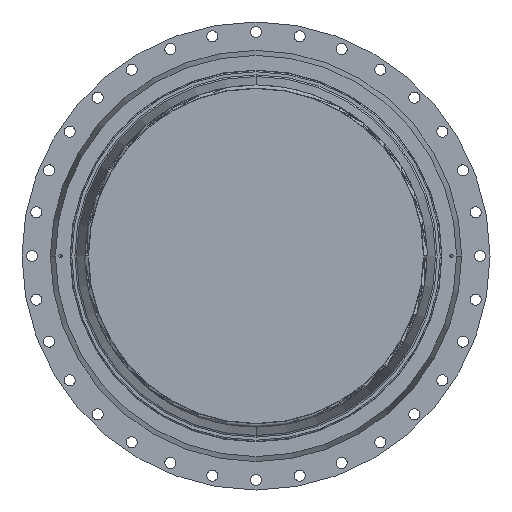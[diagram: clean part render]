
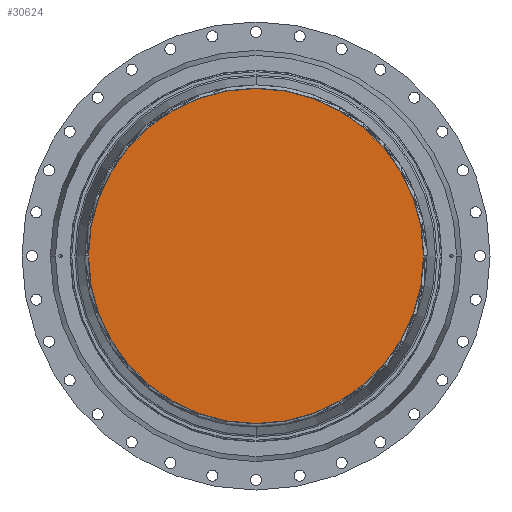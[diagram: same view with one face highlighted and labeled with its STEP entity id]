
A CAD part, front view. The second image highlights one B-rep face of the part: STEP entity #30624.
In plain terms, the highlighted planar face has unit normal (0, -1, 0).
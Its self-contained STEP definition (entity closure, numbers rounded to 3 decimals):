
#9180 = EDGE_CURVE ( 'NONE', #171031, #28561, #94190, .T. ) ;
#9775 = EDGE_CURVE ( 'NONE', #28561, #171031, #55620, .T. ) ;
#10044 = CARTESIAN_POINT ( 'NONE',  ( 0., 0., 0. ) ) ;
#11562 = AXIS2_PLACEMENT_3D ( 'NONE', #108140, #26939, #121784 ) ;
#12757 = PLANE ( 'NONE',  #11562 ) ;
#23660 = DIRECTION ( 'NONE',  ( 0., 0., -1. ) ) ;
#24391 = CARTESIAN_POINT ( 'NONE',  ( -500.958, 0., 0. ) ) ;
#26939 = DIRECTION ( 'NONE',  ( 0., 1., 0. ) ) ;
#28561 = VERTEX_POINT ( 'NONE', #69286 ) ;
#30624 = ADVANCED_FACE ( 'NONE', ( #90678 ), #12757, .F. ) ;
#55620 = CIRCLE ( 'NONE', #103229, 500.958 ) ;
#56997 = ORIENTED_EDGE ( 'NONE', *, *, #9180, .T. ) ;
#59331 = EDGE_LOOP ( 'NONE', ( #67012, #56997 ) ) ;
#59816 = AXIS2_PLACEMENT_3D ( 'NONE', #66081, #161007, #79673 ) ;
#66081 = CARTESIAN_POINT ( 'NONE',  ( 0., 0., 0. ) ) ;
#67012 = ORIENTED_EDGE ( 'NONE', *, *, #9775, .T. ) ;
#69286 = CARTESIAN_POINT ( 'NONE',  ( 500.958, 0., 0. ) ) ;
#79673 = DIRECTION ( 'NONE',  ( 0., 0., -1. ) ) ;
#90678 = FACE_OUTER_BOUND ( 'NONE', #59331, .T. ) ;
#94190 = CIRCLE ( 'NONE', #59816, 500.958 ) ;
#103229 = AXIS2_PLACEMENT_3D ( 'NONE', #10044, #104815, #23660 ) ;
#104815 = DIRECTION ( 'NONE',  ( 0., -1., 0. ) ) ;
#108140 = CARTESIAN_POINT ( 'NONE',  ( -502.042, 0., 500000. ) ) ;
#121784 = DIRECTION ( 'NONE',  ( 0., 0., 1. ) ) ;
#161007 = DIRECTION ( 'NONE',  ( 0., -1., 0. ) ) ;
#171031 = VERTEX_POINT ( 'NONE', #24391 ) ;
